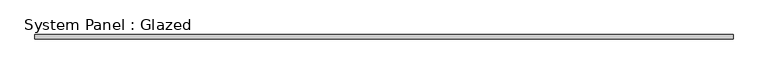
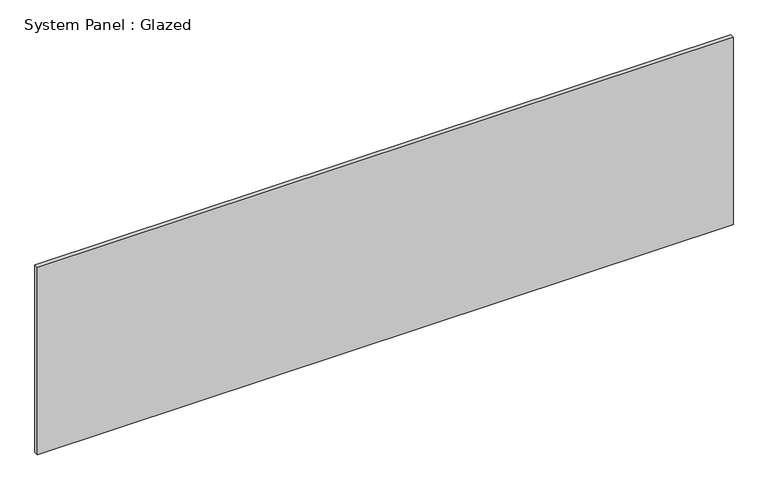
"""IFC4 building model written with IfcOpenShell, lengths in millimetres: plate geometry, System Panel : Glazed."""

import ifcopenshell
import ifcopenshell.guid

model = None  # the IFC model being written
_history = None  # IfcOwnerHistory: only IFC2X3 demands one
_inside = {}  # id of a spatial element -> (the spatial element, [elements in it])
_under = {}  # id of a project, library or spatial element -> (it, [spatial elements below it])
_declared = {}  # id of a project -> (the project, [libraries it declares])
_typed = {}  # id of a type object -> (the type object, [elements of that type])
_made_of = {}  # id of a material, layer set ... -> (it, [elements and type objects made of it])


def new_model(schema):
    """Start an empty IFC model of exactly this schema.

    Asked for "IFC4X3", IfcOpenShell would pick the latest addendum, in which some entities
    have other attributes; the version numbers below select the first issue.
    IFC2X3 requires an IfcOwnerHistory on every rooted entity: one is made here for all.
    """
    global model, _history
    if schema == "IFC4X3":
        model = ifcopenshell.file(schema_version=(4, 3, 0, 0))
    else:
        model = ifcopenshell.file(schema=schema)
    _inside.clear()
    _under.clear()
    _declared.clear()
    _typed.clear()
    _made_of.clear()
    _history = None
    if model.schema == "IFC2X3":
        org = make("IfcOrganization", Name="unknown")
        user = make(
            "IfcPersonAndOrganization",
            ThePerson=make("IfcPerson", FamilyName="unknown"),
            TheOrganization=org,
        )
        app = make(
            "IfcApplication",
            ApplicationDeveloper=org,
            Version="unknown",
            ApplicationFullName="unknown",
            ApplicationIdentifier="unknown",
        )
        _history = make(
            "IfcOwnerHistory",
            OwningUser=user,
            OwningApplication=app,
            ChangeAction="ADDED",
            CreationDate=0,
        )
    return model


def make(cls, **values):
    """One entity of the class cls with the attributes given. An attribute that is None is left unset."""
    return model.create_entity(
        cls, **{name: value for name, value in values.items() if value is not None}
    )


def rooted(cls, **values):
    """An entity with a GlobalId (a new one), such as an element, a storey or a relation."""
    return make(cls, GlobalId=ifcopenshell.guid.new(), OwnerHistory=_history, **values)


def si_unit(unit_type, name, prefix=None):
    """IfcSIUnit, for example si_unit("LENGTHUNIT", "METRE", prefix="MILLI")."""
    return make("IfcSIUnit", UnitType=unit_type, Prefix=prefix, Name=name)


def assignment(units):
    """IfcUnitAssignment: the units of a project."""
    return None if units is None else make("IfcUnitAssignment", Units=units)


def point(xyz):
    """IfcCartesianPoint."""
    return None if xyz is None else make("IfcCartesianPoint", Coordinates=xyz)


def direction(xyz):
    """IfcDirection."""
    return None if xyz is None else make("IfcDirection", DirectionRatios=xyz)


def frame(location, z_axis=None, x_axis=None):
    """IfcAxis2Placement3D, a coordinate frame: its origin and axes. An axis left out is left unset."""
    return make(
        "IfcAxis2Placement3D",
        Location=point(location),
        Axis=direction(z_axis),
        RefDirection=direction(x_axis),
    )


def origin():
    """The frame at (0, 0, 0) with its axes left unset."""
    return frame((0.0, 0.0, 0.0))


def origin_with_axes():
    """The frame at (0, 0, 0) with the z axis (0, 0, 1) and the x axis (1, 0, 0) written out."""
    return frame((0.0, 0.0, 0.0), z_axis=(0.0, 0.0, 1.0), x_axis=(1.0, 0.0, 0.0))


def place(relative_to, where):
    """IfcLocalPlacement: puts the frame where relative to a parent placement (None: the world)."""
    return make(
        "IfcLocalPlacement", PlacementRelTo=relative_to, RelativePlacement=where
    )


def context(
    kind, dimensions, precision=None, world=None, true_north=None, identifier=None
):
    """IfcGeometricRepresentationContext, for example the 3D "Model" context."""
    return make(
        "IfcGeometricRepresentationContext",
        ContextIdentifier=identifier,
        ContextType=kind,
        CoordinateSpaceDimension=dimensions,
        Precision=precision,
        WorldCoordinateSystem=world,
        TrueNorth=true_north,
    )


def project(units=None, contexts=None):
    """IfcProject with its units and contexts."""
    return rooted(
        "IfcProject",
        Name="project",
        RepresentationContexts=contexts,
        UnitsInContext=assignment(units),
    )


def spatial(cls, under=None, at=None, **own):
    """A site, building, storey or space (cls), placed at a placement, below another one or the project."""
    s = rooted(cls, ObjectPlacement=at, **own)
    if under is not None:
        _under.setdefault(under.id(), (under, []))[1].append(s)
    return s


def polyline(points):
    """IfcPolyline through the points."""
    return make("IfcPolyline", Points=[point(p) for p in points])


def outline(outer, holes=None, kind="AREA"):
    """IfcArbitraryClosedProfileDef: a profile drawn as a closed curve; with holes, ...WithVoids."""
    if holes is None:
        return make("IfcArbitraryClosedProfileDef", ProfileType=kind, OuterCurve=outer)
    return make(
        "IfcArbitraryProfileDefWithVoids",
        ProfileType=kind,
        OuterCurve=outer,
        InnerCurves=holes,
    )


def extrude(swept, where, along, depth):
    """IfcExtrudedAreaSolid: the profile swept, set in the frame where, extruded along a direction by depth."""
    return make(
        "IfcExtrudedAreaSolid",
        SweptArea=swept,
        Position=where,
        ExtrudedDirection=direction(along),
        Depth=depth,
    )


def shape(context_of_items, identifier, shape_type, items):
    """IfcShapeRepresentation: the items that make up one representation, for example the "Body"."""
    return make(
        "IfcShapeRepresentation",
        ContextOfItems=context_of_items,
        RepresentationIdentifier=identifier,
        RepresentationType=shape_type,
        Items=items,
    )


def source(mapping_origin, context_of_items, identifier, shape_type, items):
    """IfcRepresentationMap: a shape defined once, which mapped items show again and again."""
    return make(
        "IfcRepresentationMap",
        MappingOrigin=mapping_origin,
        MappedRepresentation=shape(context_of_items, identifier, shape_type, items),
    )


def transform(
    local_origin,
    x_axis=None,
    y_axis=None,
    z_axis=None,
    scale=None,
    scale2=None,
    scale3=None,
    uniform=True,
):
    """IfcCartesianTransformationOperator3D, or its non-uniform kind. x_axis, y_axis, z_axis: its Axis1, 2, 3."""
    if uniform:
        return make(
            "IfcCartesianTransformationOperator3D",
            Axis1=direction(x_axis),
            Axis2=direction(y_axis),
            LocalOrigin=point(local_origin),
            Scale=scale,
            Axis3=direction(z_axis),
        )
    return make(
        "IfcCartesianTransformationOperator3DnonUniform",
        Axis1=direction(x_axis),
        Axis2=direction(y_axis),
        LocalOrigin=point(local_origin),
        Scale=scale,
        Axis3=direction(z_axis),
        Scale2=scale2,
        Scale3=scale3,
    )


def mapped(mapping_source, mapping_target):
    """IfcMappedItem: shows the shape of a source again, moved by a transform."""
    return make(
        "IfcMappedItem", MappingSource=mapping_source, MappingTarget=mapping_target
    )


def made_of(thing, what):
    """Note that an element or type object is made of a material, layer set ...; save() writes the relation."""
    if what is not None:
        _made_of.setdefault(what.id(), (what, []))[1].append(thing)
    return thing


def element(
    cls,
    number,
    at=None,
    inside=None,
    cuts=None,
    type_object=None,
    material=None,
    context=None,
    identifier="Body",
    shape_type=None,
    held_by="IfcProductDefinitionShape",
    body=None,
    shapes=None,
    **own,
):
    """One element of the class cls, such as IfcWall. Its Tag is "e" and its number.

    at: its placement. inside: the storey or other place that contains it. cuts: it is an
    opening in that element (IfcRelVoidsElement). A single representation is given by context,
    identifier, shape_type and body (its items); several are given by shapes. held_by: the class
    of the entity that holds the representations. save() writes the other relations.
    """
    e = rooted(cls, Tag="e%d" % number, ObjectPlacement=at, **own)
    if body is not None:
        shapes = [shape(context, identifier, shape_type, body)]
    if shapes is not None:
        e.Representation = make(held_by, Representations=shapes)
    if inside is not None:
        _inside.setdefault(inside.id(), (inside, []))[1].append(e)
    if cuts is not None:
        rooted(
            "IfcRelVoidsElement", RelatingBuildingElement=cuts, RelatedOpeningElement=e
        )
    if type_object is not None:
        _typed.setdefault(type_object.id(), (type_object, []))[1].append(e)
    return made_of(e, material)


def aggregate(whole, parts):
    """IfcRelAggregates: a whole, such as a stair, and the parts it consists of."""
    return rooted("IfcRelAggregates", RelatingObject=whole, RelatedObjects=parts)


def save(model, path):
    """Write the relations noted so far, then the file.

    IfcRelAggregates (storeys below a building ...), IfcRelContainedInSpatialStructure (elements
    in a storey), IfcRelDefinesByType, IfcRelAssociatesMaterial and IfcRelDeclares: one each for
    every whole, place, type object, material and project.
    """
    for whole, parts in _under.values():
        aggregate(whole, parts)
    for where, things in _inside.values():
        rooted(
            "IfcRelContainedInSpatialStructure",
            RelatedElements=things,
            RelatingStructure=where,
        )
    for kind, things in _typed.values():
        rooted("IfcRelDefinesByType", RelatedObjects=things, RelatingType=kind)
    for what, things in _made_of.values():
        rooted("IfcRelAssociatesMaterial", RelatedObjects=things, RelatingMaterial=what)
    for by, libraries in _declared.values():
        rooted("IfcRelDeclares", RelatingContext=by, RelatedDefinitions=libraries)
    model.write(path)


def system_panel_glazed_e778729e(model_context):
    return source(origin(), model_context, "Body", "SweptSolid", [
        extrude(outline(polyline([(1975.0, -49.5), (-1975.0, -49.5), (-1975.0, -24.5), (1975.0, -24.5), (1975.0, -49.5)])), origin_with_axes(), (0.0, 0.0, 1.0), 1125.0),
    ])


if __name__ == "__main__":
    model = new_model("IFC4")
    model_context = context("Model", 3, world=origin())
    ifc_project = project(units=[si_unit("LENGTHUNIT", "METRE", prefix="MILLI")], contexts=[model_context])
    site = spatial("IfcSite", under=ifc_project)
    building = spatial("IfcBuilding", under=site)
    placement = place(None, origin())
    system_panel_glazed_shape = system_panel_glazed_e778729e(model_context)
    element("IfcPlate", 1, ObjectType="System Panel : Glazed", at=placement, inside=building, context=model_context, shape_type="MappedRepresentation", body=[
        mapped(system_panel_glazed_shape, transform((0.0, 0.0, 0.0), x_axis=(1.0, 0.0, 0.0), y_axis=(0.0, 1.0, 0.0), z_axis=(0.0, 0.0, 1.0))),
    ])
    save(model, "model.ifc")
